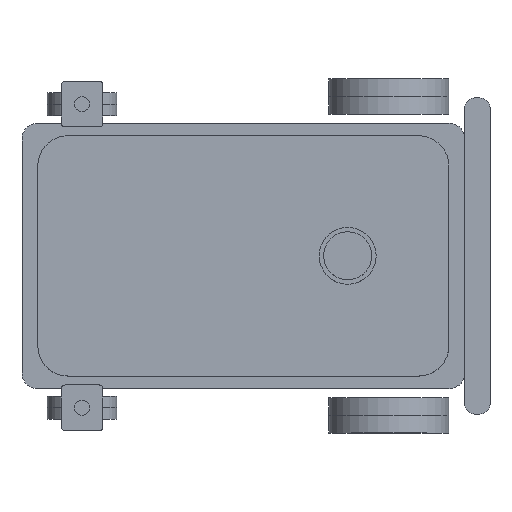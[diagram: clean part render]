
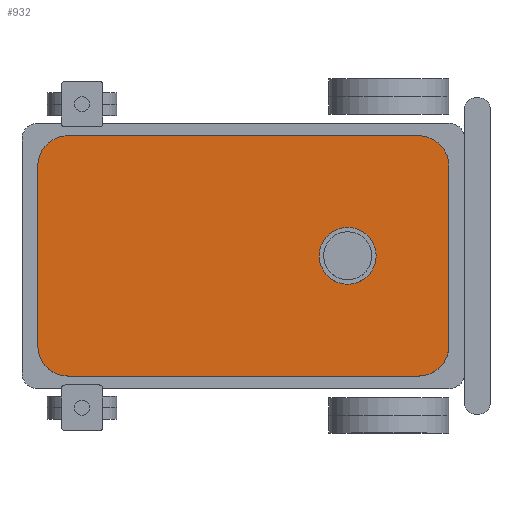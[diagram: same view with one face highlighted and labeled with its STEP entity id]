
A CAD part, top view. The second image highlights one B-rep face of the part: STEP entity #932.
In plain terms, the highlighted planar face has unit normal (0, 0, 1).
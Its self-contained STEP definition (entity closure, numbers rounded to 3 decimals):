
#816 = EDGE_CURVE('',#817,#819,#821,.T.);
#817 = VERTEX_POINT('',#818);
#818 = CARTESIAN_POINT('',(-325.,-142.,120.));
#819 = VERTEX_POINT('',#820);
#820 = CARTESIAN_POINT('',(-325.,142.,120.));
#821 = SURFACE_CURVE('',#822,(#826,#838),.PCURVE_S1.);
#822 = LINE('',#823,#824);
#823 = CARTESIAN_POINT('',(-325.,-190.,120.));
#824 = VECTOR('',#825,1.);
#825 = DIRECTION('',(0.,1.,0.));
#826 = PCURVE('',#827,#832);
#827 = PLANE('',#828);
#828 = AXIS2_PLACEMENT_3D('',#829,#830,#831);
#829 = CARTESIAN_POINT('',(-325.,-190.,0.));
#830 = DIRECTION('',(1.,0.,0.));
#831 = DIRECTION('',(0.,0.,1.));
#832 = DEFINITIONAL_REPRESENTATION('',(#833),#837);
#833 = LINE('',#834,#835);
#834 = CARTESIAN_POINT('',(120.,0.));
#835 = VECTOR('',#836,1.);
#836 = DIRECTION('',(0.,-1.));
#837 = ( GEOMETRIC_REPRESENTATION_CONTEXT(2) 
PARAMETRIC_REPRESENTATION_CONTEXT() REPRESENTATION_CONTEXT('2D SPACE',''
  ) );
#838 = PCURVE('',#839,#844);
#839 = PLANE('',#840);
#840 = AXIS2_PLACEMENT_3D('',#841,#842,#843);
#841 = CARTESIAN_POINT('',(-325.,-190.,120.));
#842 = DIRECTION('',(0.,0.,1.));
#843 = DIRECTION('',(1.,0.,0.));
#844 = DEFINITIONAL_REPRESENTATION('',(#845),#849);
#845 = LINE('',#846,#847);
#846 = CARTESIAN_POINT('',(0.,0.));
#847 = VECTOR('',#848,1.);
#848 = DIRECTION('',(0.,1.));
#849 = ( GEOMETRIC_REPRESENTATION_CONTEXT(2) 
PARAMETRIC_REPRESENTATION_CONTEXT() REPRESENTATION_CONTEXT('2D SPACE',''
  ) );
#867 = CYLINDRICAL_SURFACE('',#868,48.);
#868 = AXIS2_PLACEMENT_3D('',#869,#870,#871);
#869 = CARTESIAN_POINT('',(-277.,-142.,0.));
#870 = DIRECTION('',(0.,0.,1.));
#871 = DIRECTION('',(-1.,-0.,0.));
#921 = CYLINDRICAL_SURFACE('',#922,48.);
#922 = AXIS2_PLACEMENT_3D('',#923,#924,#925);
#923 = CARTESIAN_POINT('',(-277.,142.,0.));
#924 = DIRECTION('',(0.,0.,1.));
#925 = DIRECTION('',(-1.,-0.,0.));
#932 = ADVANCED_FACE('',(#933),#839,.T.);
#933 = FACE_BOUND('',#934,.T.);
#934 = EDGE_LOOP('',(#935,#936,#960,#988,#1021,#1049,#1078,#1106));
#935 = ORIENTED_EDGE('',*,*,#816,.F.);
#936 = ORIENTED_EDGE('',*,*,#937,.T.);
#937 = EDGE_CURVE('',#817,#938,#940,.T.);
#938 = VERTEX_POINT('',#939);
#939 = CARTESIAN_POINT('',(-277.,-190.,120.));
#940 = SURFACE_CURVE('',#941,(#946,#953),.PCURVE_S1.);
#941 = CIRCLE('',#942,48.);
#942 = AXIS2_PLACEMENT_3D('',#943,#944,#945);
#943 = CARTESIAN_POINT('',(-277.,-142.,120.));
#944 = DIRECTION('',(0.,0.,1.));
#945 = DIRECTION('',(0.,-1.,0.));
#946 = PCURVE('',#839,#947);
#947 = DEFINITIONAL_REPRESENTATION('',(#948),#952);
#948 = CIRCLE('',#949,48.);
#949 = AXIS2_PLACEMENT_2D('',#950,#951);
#950 = CARTESIAN_POINT('',(48.,48.));
#951 = DIRECTION('',(0.,-1.));
#952 = ( GEOMETRIC_REPRESENTATION_CONTEXT(2) 
PARAMETRIC_REPRESENTATION_CONTEXT() REPRESENTATION_CONTEXT('2D SPACE',''
  ) );
#953 = PCURVE('',#867,#954);
#954 = DEFINITIONAL_REPRESENTATION('',(#955),#959);
#955 = LINE('',#956,#957);
#956 = CARTESIAN_POINT('',(-4.712,120.));
#957 = VECTOR('',#958,1.);
#958 = DIRECTION('',(1.,0.));
#959 = ( GEOMETRIC_REPRESENTATION_CONTEXT(2) 
PARAMETRIC_REPRESENTATION_CONTEXT() REPRESENTATION_CONTEXT('2D SPACE',''
  ) );
#960 = ORIENTED_EDGE('',*,*,#961,.T.);
#961 = EDGE_CURVE('',#938,#962,#964,.T.);
#962 = VERTEX_POINT('',#963);
#963 = CARTESIAN_POINT('',(277.,-190.,120.));
#964 = SURFACE_CURVE('',#965,(#969,#976),.PCURVE_S1.);
#965 = LINE('',#966,#967);
#966 = CARTESIAN_POINT('',(-325.,-190.,120.));
#967 = VECTOR('',#968,1.);
#968 = DIRECTION('',(1.,0.,0.));
#969 = PCURVE('',#839,#970);
#970 = DEFINITIONAL_REPRESENTATION('',(#971),#975);
#971 = LINE('',#972,#973);
#972 = CARTESIAN_POINT('',(0.,0.));
#973 = VECTOR('',#974,1.);
#974 = DIRECTION('',(1.,0.));
#975 = ( GEOMETRIC_REPRESENTATION_CONTEXT(2) 
PARAMETRIC_REPRESENTATION_CONTEXT() REPRESENTATION_CONTEXT('2D SPACE',''
  ) );
#976 = PCURVE('',#977,#982);
#977 = PLANE('',#978);
#978 = AXIS2_PLACEMENT_3D('',#979,#980,#981);
#979 = CARTESIAN_POINT('',(-325.,-190.,0.));
#980 = DIRECTION('',(0.,1.,0.));
#981 = DIRECTION('',(0.,0.,1.));
#982 = DEFINITIONAL_REPRESENTATION('',(#983),#987);
#983 = LINE('',#984,#985);
#984 = CARTESIAN_POINT('',(120.,0.));
#985 = VECTOR('',#986,1.);
#986 = DIRECTION('',(0.,1.));
#987 = ( GEOMETRIC_REPRESENTATION_CONTEXT(2) 
PARAMETRIC_REPRESENTATION_CONTEXT() REPRESENTATION_CONTEXT('2D SPACE',''
  ) );
#988 = ORIENTED_EDGE('',*,*,#989,.F.);
#989 = EDGE_CURVE('',#990,#962,#992,.T.);
#990 = VERTEX_POINT('',#991);
#991 = CARTESIAN_POINT('',(325.,-142.,120.));
#992 = SURFACE_CURVE('',#993,(#998,#1009),.PCURVE_S1.);
#993 = CIRCLE('',#994,48.);
#994 = AXIS2_PLACEMENT_3D('',#995,#996,#997);
#995 = CARTESIAN_POINT('',(277.,-142.,120.));
#996 = DIRECTION('',(-0.,-0.,-1.));
#997 = DIRECTION('',(0.,-1.,0.));
#998 = PCURVE('',#839,#999);
#999 = DEFINITIONAL_REPRESENTATION('',(#1000),#1008);
#1000 = ( BOUNDED_CURVE() B_SPLINE_CURVE(2,(#1001,#1002,#1003,#1004,
#1005,#1006,#1007),.UNSPECIFIED.,.T.,.F.) B_SPLINE_CURVE_WITH_KNOTS((1,2
    ,2,2,2,1),(-2.094,0.,2.094,4.189,
6.283,8.378),.UNSPECIFIED.) CURVE() 
GEOMETRIC_REPRESENTATION_ITEM() RATIONAL_B_SPLINE_CURVE((1.,0.5,1.,0.5,
1.,0.5,1.)) REPRESENTATION_ITEM('') );
#1001 = CARTESIAN_POINT('',(602.,0.));
#1002 = CARTESIAN_POINT('',(518.862,0.));
#1003 = CARTESIAN_POINT('',(560.431,72.));
#1004 = CARTESIAN_POINT('',(602.,144.));
#1005 = CARTESIAN_POINT('',(643.569,72.));
#1006 = CARTESIAN_POINT('',(685.138,0.));
#1007 = CARTESIAN_POINT('',(602.,0.));
#1008 = ( GEOMETRIC_REPRESENTATION_CONTEXT(2) 
PARAMETRIC_REPRESENTATION_CONTEXT() REPRESENTATION_CONTEXT('2D SPACE',''
  ) );
#1009 = PCURVE('',#1010,#1015);
#1010 = CYLINDRICAL_SURFACE('',#1011,48.);
#1011 = AXIS2_PLACEMENT_3D('',#1012,#1013,#1014);
#1012 = CARTESIAN_POINT('',(277.,-142.,0.));
#1013 = DIRECTION('',(0.,0.,1.));
#1014 = DIRECTION('',(1.,0.,-0.));
#1015 = DEFINITIONAL_REPRESENTATION('',(#1016),#1020);
#1016 = LINE('',#1017,#1018);
#1017 = CARTESIAN_POINT('',(4.712,120.));
#1018 = VECTOR('',#1019,1.);
#1019 = DIRECTION('',(-1.,0.));
#1020 = ( GEOMETRIC_REPRESENTATION_CONTEXT(2) 
PARAMETRIC_REPRESENTATION_CONTEXT() REPRESENTATION_CONTEXT('2D SPACE',''
  ) );
#1021 = ORIENTED_EDGE('',*,*,#1022,.T.);
#1022 = EDGE_CURVE('',#990,#1023,#1025,.T.);
#1023 = VERTEX_POINT('',#1024);
#1024 = CARTESIAN_POINT('',(325.,142.,120.));
#1025 = SURFACE_CURVE('',#1026,(#1030,#1037),.PCURVE_S1.);
#1026 = LINE('',#1027,#1028);
#1027 = CARTESIAN_POINT('',(325.,-190.,120.));
#1028 = VECTOR('',#1029,1.);
#1029 = DIRECTION('',(0.,1.,0.));
#1030 = PCURVE('',#839,#1031);
#1031 = DEFINITIONAL_REPRESENTATION('',(#1032),#1036);
#1032 = LINE('',#1033,#1034);
#1033 = CARTESIAN_POINT('',(650.,0.));
#1034 = VECTOR('',#1035,1.);
#1035 = DIRECTION('',(0.,1.));
#1036 = ( GEOMETRIC_REPRESENTATION_CONTEXT(2) 
PARAMETRIC_REPRESENTATION_CONTEXT() REPRESENTATION_CONTEXT('2D SPACE',''
  ) );
#1037 = PCURVE('',#1038,#1043);
#1038 = PLANE('',#1039);
#1039 = AXIS2_PLACEMENT_3D('',#1040,#1041,#1042);
#1040 = CARTESIAN_POINT('',(325.,-190.,0.));
#1041 = DIRECTION('',(1.,0.,0.));
#1042 = DIRECTION('',(0.,0.,1.));
#1043 = DEFINITIONAL_REPRESENTATION('',(#1044),#1048);
#1044 = LINE('',#1045,#1046);
#1045 = CARTESIAN_POINT('',(120.,0.));
#1046 = VECTOR('',#1047,1.);
#1047 = DIRECTION('',(0.,-1.));
#1048 = ( GEOMETRIC_REPRESENTATION_CONTEXT(2) 
PARAMETRIC_REPRESENTATION_CONTEXT() REPRESENTATION_CONTEXT('2D SPACE',''
  ) );
#1049 = ORIENTED_EDGE('',*,*,#1050,.T.);
#1050 = EDGE_CURVE('',#1023,#1051,#1053,.T.);
#1051 = VERTEX_POINT('',#1052);
#1052 = CARTESIAN_POINT('',(277.,190.,120.));
#1053 = SURFACE_CURVE('',#1054,(#1059,#1066),.PCURVE_S1.);
#1054 = CIRCLE('',#1055,48.);
#1055 = AXIS2_PLACEMENT_3D('',#1056,#1057,#1058);
#1056 = CARTESIAN_POINT('',(277.,142.,120.));
#1057 = DIRECTION('',(0.,0.,1.));
#1058 = DIRECTION('',(0.,-1.,0.));
#1059 = PCURVE('',#839,#1060);
#1060 = DEFINITIONAL_REPRESENTATION('',(#1061),#1065);
#1061 = CIRCLE('',#1062,48.);
#1062 = AXIS2_PLACEMENT_2D('',#1063,#1064);
#1063 = CARTESIAN_POINT('',(602.,332.));
#1064 = DIRECTION('',(0.,-1.));
#1065 = ( GEOMETRIC_REPRESENTATION_CONTEXT(2) 
PARAMETRIC_REPRESENTATION_CONTEXT() REPRESENTATION_CONTEXT('2D SPACE',''
  ) );
#1066 = PCURVE('',#1067,#1072);
#1067 = CYLINDRICAL_SURFACE('',#1068,48.);
#1068 = AXIS2_PLACEMENT_3D('',#1069,#1070,#1071);
#1069 = CARTESIAN_POINT('',(277.,142.,0.));
#1070 = DIRECTION('',(0.,0.,1.));
#1071 = DIRECTION('',(1.,0.,-0.));
#1072 = DEFINITIONAL_REPRESENTATION('',(#1073),#1077);
#1073 = LINE('',#1074,#1075);
#1074 = CARTESIAN_POINT('',(-1.571,120.));
#1075 = VECTOR('',#1076,1.);
#1076 = DIRECTION('',(1.,0.));
#1077 = ( GEOMETRIC_REPRESENTATION_CONTEXT(2) 
PARAMETRIC_REPRESENTATION_CONTEXT() REPRESENTATION_CONTEXT('2D SPACE',''
  ) );
#1078 = ORIENTED_EDGE('',*,*,#1079,.F.);
#1079 = EDGE_CURVE('',#1080,#1051,#1082,.T.);
#1080 = VERTEX_POINT('',#1081);
#1081 = CARTESIAN_POINT('',(-277.,190.,120.));
#1082 = SURFACE_CURVE('',#1083,(#1087,#1094),.PCURVE_S1.);
#1083 = LINE('',#1084,#1085);
#1084 = CARTESIAN_POINT('',(-325.,190.,120.));
#1085 = VECTOR('',#1086,1.);
#1086 = DIRECTION('',(1.,0.,0.));
#1087 = PCURVE('',#839,#1088);
#1088 = DEFINITIONAL_REPRESENTATION('',(#1089),#1093);
#1089 = LINE('',#1090,#1091);
#1090 = CARTESIAN_POINT('',(0.,380.));
#1091 = VECTOR('',#1092,1.);
#1092 = DIRECTION('',(1.,0.));
#1093 = ( GEOMETRIC_REPRESENTATION_CONTEXT(2) 
PARAMETRIC_REPRESENTATION_CONTEXT() REPRESENTATION_CONTEXT('2D SPACE',''
  ) );
#1094 = PCURVE('',#1095,#1100);
#1095 = PLANE('',#1096);
#1096 = AXIS2_PLACEMENT_3D('',#1097,#1098,#1099);
#1097 = CARTESIAN_POINT('',(-325.,190.,0.));
#1098 = DIRECTION('',(0.,1.,0.));
#1099 = DIRECTION('',(0.,0.,1.));
#1100 = DEFINITIONAL_REPRESENTATION('',(#1101),#1105);
#1101 = LINE('',#1102,#1103);
#1102 = CARTESIAN_POINT('',(120.,0.));
#1103 = VECTOR('',#1104,1.);
#1104 = DIRECTION('',(0.,1.));
#1105 = ( GEOMETRIC_REPRESENTATION_CONTEXT(2) 
PARAMETRIC_REPRESENTATION_CONTEXT() REPRESENTATION_CONTEXT('2D SPACE',''
  ) );
#1106 = ORIENTED_EDGE('',*,*,#1107,.F.);
#1107 = EDGE_CURVE('',#819,#1080,#1108,.T.);
#1108 = SURFACE_CURVE('',#1109,(#1114,#1125),.PCURVE_S1.);
#1109 = CIRCLE('',#1110,48.);
#1110 = AXIS2_PLACEMENT_3D('',#1111,#1112,#1113);
#1111 = CARTESIAN_POINT('',(-277.,142.,120.));
#1112 = DIRECTION('',(-0.,-0.,-1.));
#1113 = DIRECTION('',(0.,-1.,0.));
#1114 = PCURVE('',#839,#1115);
#1115 = DEFINITIONAL_REPRESENTATION('',(#1116),#1124);
#1116 = ( BOUNDED_CURVE() B_SPLINE_CURVE(2,(#1117,#1118,#1119,#1120,
#1121,#1122,#1123),.UNSPECIFIED.,.T.,.F.) B_SPLINE_CURVE_WITH_KNOTS((1,2
    ,2,2,2,1),(-2.094,0.,2.094,4.189,
6.283,8.378),.UNSPECIFIED.) CURVE() 
GEOMETRIC_REPRESENTATION_ITEM() RATIONAL_B_SPLINE_CURVE((1.,0.5,1.,0.5,
1.,0.5,1.)) REPRESENTATION_ITEM('') );
#1117 = CARTESIAN_POINT('',(48.,284.));
#1118 = CARTESIAN_POINT('',(-35.138,284.));
#1119 = CARTESIAN_POINT('',(6.431,356.));
#1120 = CARTESIAN_POINT('',(48.,428.));
#1121 = CARTESIAN_POINT('',(89.569,356.));
#1122 = CARTESIAN_POINT('',(131.138,284.));
#1123 = CARTESIAN_POINT('',(48.,284.));
#1124 = ( GEOMETRIC_REPRESENTATION_CONTEXT(2) 
PARAMETRIC_REPRESENTATION_CONTEXT() REPRESENTATION_CONTEXT('2D SPACE',''
  ) );
#1125 = PCURVE('',#921,#1126);
#1126 = DEFINITIONAL_REPRESENTATION('',(#1127),#1131);
#1127 = LINE('',#1128,#1129);
#1128 = CARTESIAN_POINT('',(1.571,120.));
#1129 = VECTOR('',#1130,1.);
#1130 = DIRECTION('',(-1.,0.));
#1131 = ( GEOMETRIC_REPRESENTATION_CONTEXT(2) 
PARAMETRIC_REPRESENTATION_CONTEXT() REPRESENTATION_CONTEXT('2D SPACE',''
  ) );
